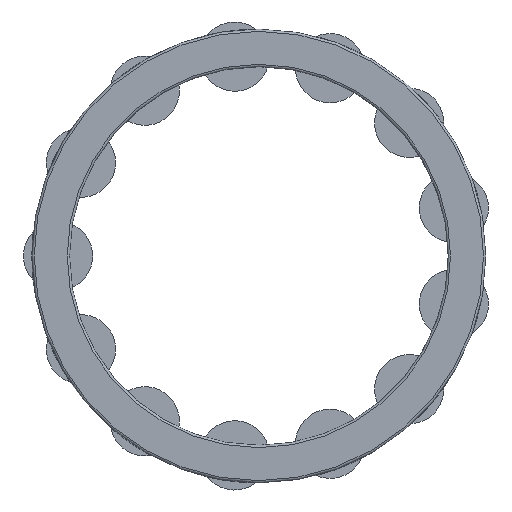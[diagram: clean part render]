
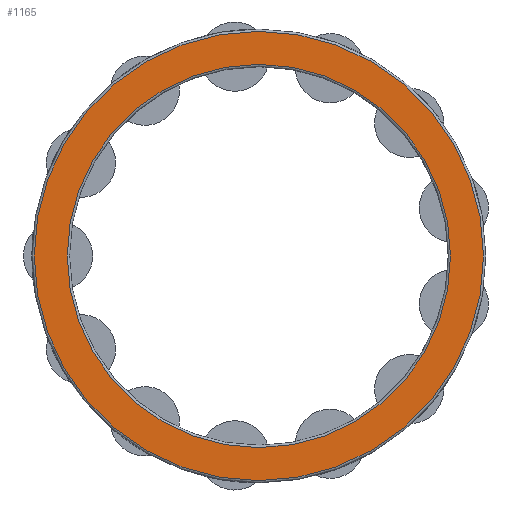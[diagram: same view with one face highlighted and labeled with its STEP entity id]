
A CAD part, left-side view. The second image highlights one B-rep face of the part: STEP entity #1165.
In plain terms, the highlighted planar face has unit normal (-1, 0, 0).
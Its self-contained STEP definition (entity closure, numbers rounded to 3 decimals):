
#16=PLANE('',#1284);
#218=FACE_BOUND('',#343,.T.);
#239=FACE_OUTER_BOUND('',#342,.T.);
#342=EDGE_LOOP('',(#889));
#343=EDGE_LOOP('',(#890));
#471=CIRCLE('',#1283,8.3);
#472=CIRCLE('',#1285,9.73);
#609=VERTEX_POINT('',#2014);
#610=VERTEX_POINT('',#2017);
#721=EDGE_CURVE('',#609,#609,#471,.T.);
#722=EDGE_CURVE('',#610,#610,#472,.T.);
#889=ORIENTED_EDGE('',*,*,#722,.F.);
#890=ORIENTED_EDGE('',*,*,#721,.F.);
#1165=ADVANCED_FACE('',(#239,#218),#16,.T.);
#1283=AXIS2_PLACEMENT_3D('',#2015,#1543,#1544);
#1284=AXIS2_PLACEMENT_3D('',#2016,#1545,#1546);
#1285=AXIS2_PLACEMENT_3D('',#2018,#1547,#1548);
#1543=DIRECTION('center_axis',(-1.,0.,0.));
#1544=DIRECTION('ref_axis',(0.,-1.,0.));
#1545=DIRECTION('center_axis',(-1.,0.,0.));
#1546=DIRECTION('ref_axis',(0.,0.,1.));
#1547=DIRECTION('center_axis',(1.,0.,0.));
#1548=DIRECTION('ref_axis',(0.,-1.,0.));
#2014=CARTESIAN_POINT('',(-5.,8.3,0.));
#2015=CARTESIAN_POINT('Origin',(-5.,0.,0.));
#2016=CARTESIAN_POINT('Origin',(-5.,9.83,0.));
#2017=CARTESIAN_POINT('',(-5.,9.73,0.));
#2018=CARTESIAN_POINT('Origin',(-5.,0.,0.));
